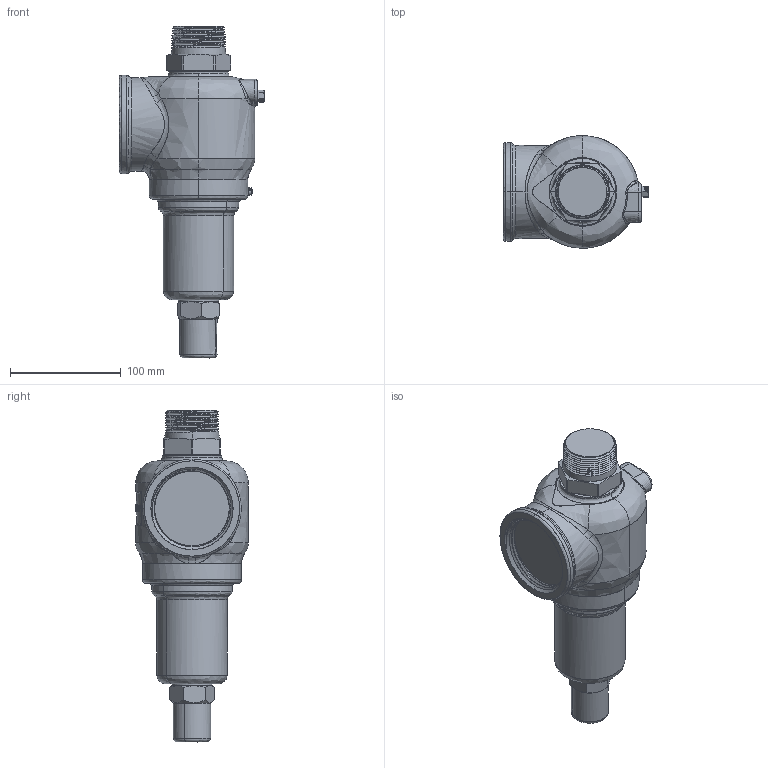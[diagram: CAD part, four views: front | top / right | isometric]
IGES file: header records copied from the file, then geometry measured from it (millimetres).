
Start section: SolidWorks IGES file using NURBS representation for surfaces
Global section: file name: C:\Design\Design\Aquatrol\Customer 3D Files\Series 740 Customer Files\H Orifice\Customer\Iges Files\Series 740 H 1500 x 2500 Closed Cap.IGS; native system: SolidWorks 2015; preprocessor: SolidWorks 2015; author: Karl; date: 150515.104126; units: inch
Bounding box: 131.74 x 101.6 x 299.71 mm (x, y, z)
Surface area: 92111.7 mm2 (no closed solid volume)
Topology: 0 solids, 0 shells, 336 faces, 7010 edges, 7010 vertices
Faces by surface type: bspline 336
